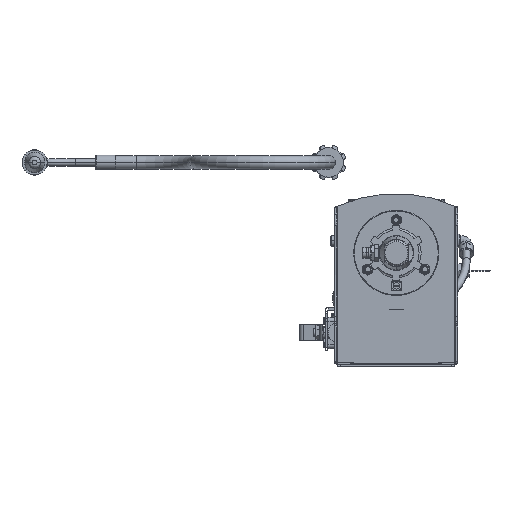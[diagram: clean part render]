
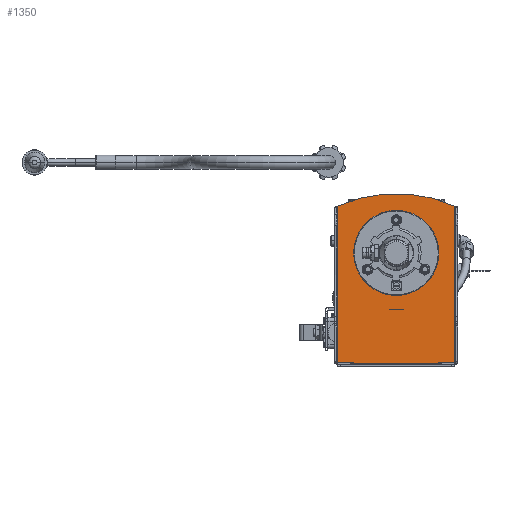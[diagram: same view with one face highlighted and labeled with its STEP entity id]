
A CAD part, front view. The second image highlights one B-rep face of the part: STEP entity #1350.
In plain terms, the highlighted planar face has unit normal (0, -1, 0).
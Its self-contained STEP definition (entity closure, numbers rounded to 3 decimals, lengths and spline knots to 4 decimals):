
#1=DIRECTION('',(1.,0.,0.));
#2=VECTOR('',#1,5.79);
#3=CARTESIAN_POINT('',(-2.895,-2.9465,-3.004));
#4=LINE('',#3,#2);
#5=DIRECTION('',(0.,0.,1.));
#6=VECTOR('',#5,0.005);
#7=CARTESIAN_POINT('',(-2.895,-2.9465,-3.004));
#8=LINE('',#7,#6);
#9=DIRECTION('',(0.,0.,1.));
#10=VECTOR('',#9,7.7633);
#11=CARTESIAN_POINT('',(-2.895,-2.9465,-2.999));
#12=LINE('',#11,#10);
#13=CARTESIAN_POINT('',(0.,-2.9465,-1.609));
#14=DIRECTION('',(0.,-1.,0.));
#15=DIRECTION('',(0.414,0.,0.91));
#16=AXIS2_PLACEMENT_3D('',#13,#14,#15);
#18=DIRECTION('',(0.,0.,1.));
#19=VECTOR('',#18,7.7633);
#20=CARTESIAN_POINT('',(2.895,-2.9465,-2.999));
#21=LINE('',#20,#19);
#22=DIRECTION('',(0.,0.,-1.));
#23=VECTOR('',#22,0.005);
#24=CARTESIAN_POINT('',(2.895,-2.9465,-2.999));
#25=LINE('',#24,#23);
#1039=CARTESIAN_POINT('',(2.895,-2.9465,-2.999));
#1040=CARTESIAN_POINT('',(2.895,-2.9465,4.7643));
#1041=VERTEX_POINT('',#1039);
#1042=VERTEX_POINT('',#1040);
#1055=CARTESIAN_POINT('',(-2.895,-2.9465,-2.999));
#1056=CARTESIAN_POINT('',(-2.895,-2.9465,4.7643));
#1057=VERTEX_POINT('',#1055);
#1058=VERTEX_POINT('',#1056);
#1071=CARTESIAN_POINT('',(-2.895,-2.9465,-3.004));
#1072=CARTESIAN_POINT('',(2.895,-2.9465,-3.004));
#1073=VERTEX_POINT('',#1071);
#1074=VERTEX_POINT('',#1072);
#1331=CARTESIAN_POINT('',(0.,-2.9465,-2.999));
#1332=DIRECTION('',(0.,-1.,0.));
#1333=DIRECTION('',(1.,0.,0.));
#1334=AXIS2_PLACEMENT_3D('',#1331,#1332,#1333);
#1335=PLANE('',#1334);
#1337=ORIENTED_EDGE('',*,*,#1336,.F.);
#1339=ORIENTED_EDGE('',*,*,#1338,.T.);
#1341=ORIENTED_EDGE('',*,*,#1340,.T.);
#1343=ORIENTED_EDGE('',*,*,#1342,.F.);
#1345=ORIENTED_EDGE('',*,*,#1344,.F.);
#1347=ORIENTED_EDGE('',*,*,#1346,.T.);
#1348=EDGE_LOOP('',(#1337,#1339,#1341,#1343,#1345,#1347));
#1349=FACE_OUTER_BOUND('',#1348,.F.);
#1350=ADVANCED_FACE('',(#1349),#1335,.T.);
#17=CIRCLE('',#16,7.);
#1336=EDGE_CURVE('',#1073,#1074,#4,.T.);
#1338=EDGE_CURVE('',#1073,#1057,#8,.T.);
#1340=EDGE_CURVE('',#1057,#1058,#12,.T.);
#1342=EDGE_CURVE('',#1042,#1058,#17,.T.);
#1344=EDGE_CURVE('',#1041,#1042,#21,.T.);
#1346=EDGE_CURVE('',#1041,#1074,#25,.T.);
